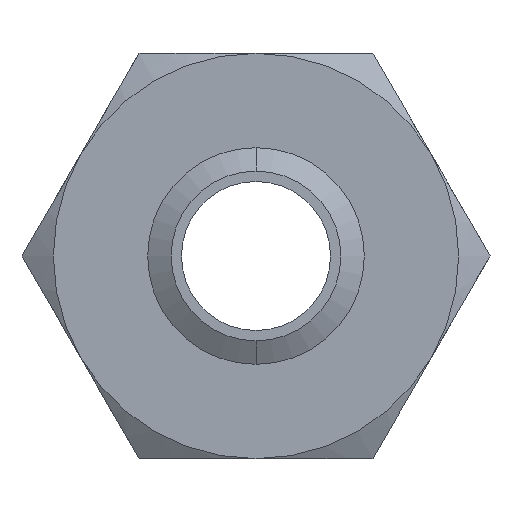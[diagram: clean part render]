
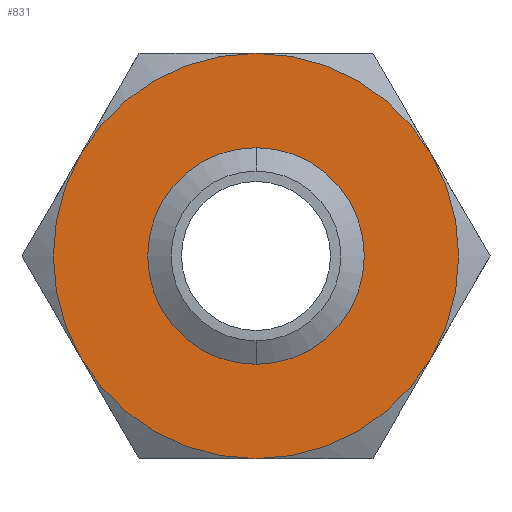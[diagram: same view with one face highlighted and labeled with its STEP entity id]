
A CAD part, front view. The second image highlights one B-rep face of the part: STEP entity #831.
In plain terms, the highlighted planar face has unit normal (0, -1, 0).
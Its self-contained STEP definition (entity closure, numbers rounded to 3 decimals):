
#4 = EDGE_CURVE ( 'NONE', #6, #5, #1028, .T. ) ;
#5 = VERTEX_POINT ( 'NONE', #1023 ) ;
#6 = VERTEX_POINT ( 'NONE', #1022 ) ;
#621 = VERTEX_POINT ( 'NONE', #1379 ) ;
#622 = ORIENTED_EDGE ( 'NONE', *, *, #669, .F. ) ;
#642 = EDGE_CURVE ( 'NONE', #832, #621, #1460, .T. ) ;
#649 = ORIENTED_EDGE ( 'NONE', *, *, #642, .F. ) ;
#650 = EDGE_CURVE ( 'NONE', #621, #801, #1445, .T. ) ;
#651 = ORIENTED_EDGE ( 'NONE', *, *, #650, .F. ) ;
#659 = ORIENTED_EDGE ( 'NONE', *, *, #683, .F. ) ;
#669 = EDGE_CURVE ( 'NONE', #801, #671, #1527, .T. ) ;
#671 = VERTEX_POINT ( 'NONE', #1522 ) ;
#672 = EDGE_LOOP ( 'NONE', ( #939, #684 ) ) ;
#683 = EDGE_CURVE ( 'NONE', #671, #802, #1555, .T. ) ;
#684 = ORIENTED_EDGE ( 'NONE', *, *, #743, .F. ) ;
#743 = EDGE_CURVE ( 'NONE', #5, #6, #1662, .T. ) ;
#799 = VERTEX_POINT ( 'NONE', #1789 ) ;
#801 = VERTEX_POINT ( 'NONE', #1788 ) ;
#802 = VERTEX_POINT ( 'NONE', #1787 ) ;
#820 = ORIENTED_EDGE ( 'NONE', *, *, #821, .F. ) ;
#821 = EDGE_CURVE ( 'NONE', #802, #799, #1811, .T. ) ;
#828 = EDGE_CURVE ( 'NONE', #799, #832, #1858, .T. ) ;
#829 = ORIENTED_EDGE ( 'NONE', *, *, #828, .F. ) ;
#831 = ADVANCED_FACE ( 'NONE', ( #1853, #1852 ), #1851, .F. ) ;
#832 = VERTEX_POINT ( 'NONE', #1849 ) ;
#833 = EDGE_LOOP ( 'NONE', ( #651, #649, #829, #820, #659, #622 ) ) ;
#939 = ORIENTED_EDGE ( 'NONE', *, *, #4, .F. ) ;
#1022 = CARTESIAN_POINT ( 'NONE',  ( 0., 0., -19.901 ) ) ;
#1023 = CARTESIAN_POINT ( 'NONE',  ( 0., 0., 19.901 ) ) ;
#1024 = DIRECTION ( 'NONE',  ( 0., 0., -1. ) ) ;
#1025 = DIRECTION ( 'NONE',  ( 0., -1., 0. ) ) ;
#1026 = CARTESIAN_POINT ( 'NONE',  ( 0., 0., 0. ) ) ;
#1027 = AXIS2_PLACEMENT_3D ( 'NONE', #1026, #1025, #1024 ) ;
#1028 = CIRCLE ( 'NONE', #1027, 19.901 ) ;
#1379 = CARTESIAN_POINT ( 'NONE',  ( 0., 0., 47.5 ) ) ;
#1406 = CARTESIAN_POINT ( 'NONE',  ( 0., 0., 0. ) ) ;
#1437 = DIRECTION ( 'NONE',  ( 0., 0., 1. ) ) ;
#1438 = DIRECTION ( 'NONE',  ( 0., 1., 0. ) ) ;
#1439 = CARTESIAN_POINT ( 'NONE',  ( 0., 0., 0. ) ) ;
#1440 = AXIS2_PLACEMENT_3D ( 'NONE', #1439, #1438, #1437 ) ;
#1445 = CIRCLE ( 'NONE', #1440, 47.5 ) ;
#1447 = DIRECTION ( 'NONE',  ( 0., 0., 1. ) ) ;
#1448 = DIRECTION ( 'NONE',  ( 0., 1., 0. ) ) ;
#1459 = AXIS2_PLACEMENT_3D ( 'NONE', #1406, #1448, #1447 ) ;
#1460 = CIRCLE ( 'NONE', #1459, 47.5 ) ;
#1522 = CARTESIAN_POINT ( 'NONE',  ( 41.136, 0., -23.75 ) ) ;
#1523 = DIRECTION ( 'NONE',  ( 0., 0., 1. ) ) ;
#1524 = DIRECTION ( 'NONE',  ( 0., 1., 0. ) ) ;
#1525 = CARTESIAN_POINT ( 'NONE',  ( 0., 0., 0. ) ) ;
#1526 = AXIS2_PLACEMENT_3D ( 'NONE', #1525, #1524, #1523 ) ;
#1527 = CIRCLE ( 'NONE', #1526, 47.5 ) ;
#1551 = DIRECTION ( 'NONE',  ( 0., 0., 1. ) ) ;
#1552 = DIRECTION ( 'NONE',  ( 0., 1., 0. ) ) ;
#1553 = CARTESIAN_POINT ( 'NONE',  ( 0., 0., 0. ) ) ;
#1554 = AXIS2_PLACEMENT_3D ( 'NONE', #1553, #1552, #1551 ) ;
#1555 = CIRCLE ( 'NONE', #1554, 47.5 ) ;
#1658 = DIRECTION ( 'NONE',  ( 0., 0., -1. ) ) ;
#1659 = DIRECTION ( 'NONE',  ( 0., -1., 0. ) ) ;
#1660 = CARTESIAN_POINT ( 'NONE',  ( 0., 0., 0. ) ) ;
#1661 = AXIS2_PLACEMENT_3D ( 'NONE', #1660, #1659, #1658 ) ;
#1662 = CIRCLE ( 'NONE', #1661, 19.901 ) ;
#1787 = CARTESIAN_POINT ( 'NONE',  ( 0., 0., -47.5 ) ) ;
#1788 = CARTESIAN_POINT ( 'NONE',  ( 41.136, 0., 23.75 ) ) ;
#1789 = CARTESIAN_POINT ( 'NONE',  ( -41.136, 0., -23.75 ) ) ;
#1807 = DIRECTION ( 'NONE',  ( 0., 0., 1. ) ) ;
#1808 = DIRECTION ( 'NONE',  ( 0., 1., 0. ) ) ;
#1809 = CARTESIAN_POINT ( 'NONE',  ( 0., 0., 0. ) ) ;
#1810 = AXIS2_PLACEMENT_3D ( 'NONE', #1809, #1808, #1807 ) ;
#1811 = CIRCLE ( 'NONE', #1810, 47.5 ) ;
#1846 = DIRECTION ( 'NONE',  ( 0., 0., 1. ) ) ;
#1847 = DIRECTION ( 'NONE',  ( 0., 1., 0. ) ) ;
#1848 = CARTESIAN_POINT ( 'NONE',  ( 27.424, 0., -47.5 ) ) ;
#1849 = CARTESIAN_POINT ( 'NONE',  ( -41.136, 0., 23.75 ) ) ;
#1850 = AXIS2_PLACEMENT_3D ( 'NONE', #1848, #1847, #1846 ) ;
#1851 = PLANE ( 'NONE',  #1850 ) ;
#1852 = FACE_BOUND ( 'NONE', #672, .T. ) ;
#1853 = FACE_OUTER_BOUND ( 'NONE', #833, .T. ) ;
#1854 = DIRECTION ( 'NONE',  ( 0., 0., 1. ) ) ;
#1855 = DIRECTION ( 'NONE',  ( 0., 1., 0. ) ) ;
#1856 = CARTESIAN_POINT ( 'NONE',  ( 0., 0., 0. ) ) ;
#1857 = AXIS2_PLACEMENT_3D ( 'NONE', #1856, #1855, #1854 ) ;
#1858 = CIRCLE ( 'NONE', #1857, 47.5 ) ;
